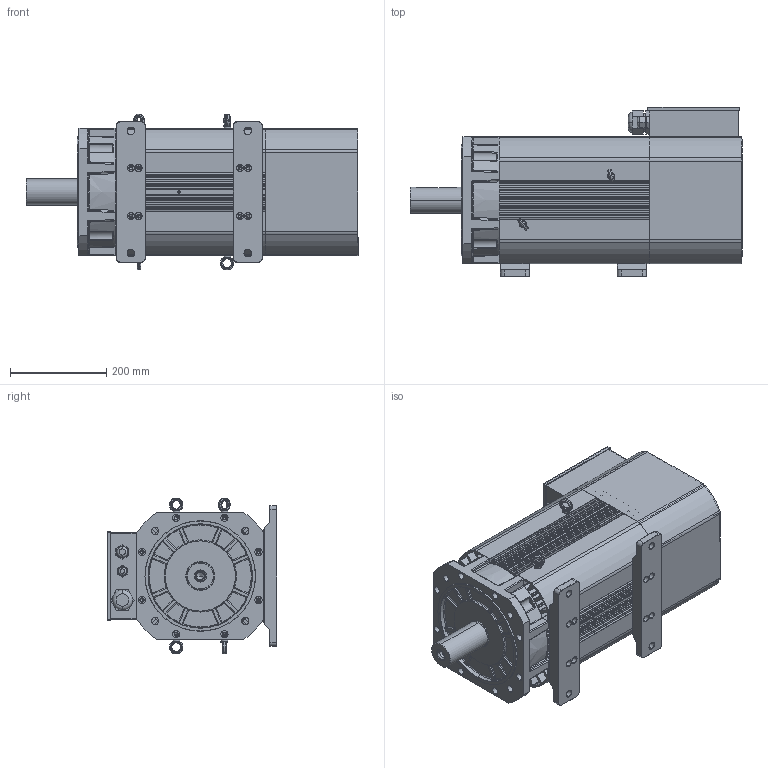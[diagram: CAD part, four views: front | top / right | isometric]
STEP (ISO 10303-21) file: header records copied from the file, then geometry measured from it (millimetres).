
FILE_DESCRIPTION (( 'STEP AP203' ), '1' );
FILE_NAME ('265H-B35-55J 俋倛芞.STEP', '2022-04-15T08:52:37', ( '' ), ( '' ), 'SwSTEP 2.0', 'SolidWorks 2016', '' );
FILE_SCHEMA (( 'CONFIG_CONTROL_DESIGN' ));
Length unit declared in the file: millimetre
Products named in the file (22): 265-55J-粣18.5kw; 齬脣晤鎢ん啣; ヶ裔55J郪璃; 接线盒后盖风罩组件; 265H儂褲22KW; 265瑞欶; M36蹟杶; 265諉盄碟; M16X1.5蹟杶; 265芧埽ヶ傷裔; 諉盄碟郪璃; 瑞儂諉盄翐; 齬脣鼠芛; 265后端盖铸铁_光电编码器; M20X1.5蹟杶; 265菁褐; 265H-B35-55J 俋倛芞; cross recessed cheese head screws gb_GB_CROSS_SCREWS_TYPE2 M3X4-4  H type-N; M8X12裂遠; 265諉盄碟裔
Assembly tree (30 placements, depth 5):
  265H-B35-55J 俋倛芞
    265H儂褲22KW
    ヶ裔55J郪璃
      265芧埽ヶ傷裔
      265-55J-粣18.5kw
    接线盒后盖风罩组件
      265后端盖铸铁_光电编码器
      265瑞欶
      諉盄碟郪璃
        265諉盄碟
        M36蹟杶
        M16X1.5蹟杶
        M20X1.5蹟杶
        265諉盄碟裔
        瑞儂諉盄翐
          瑞儂諉盄翐
          cross recessed cheese head screws gb_GB_CROSS_SCREWS_TYPE2 M3X4-4  H type-N  x6
        齬脣晤鎢ん啣
          齬脣晤鎢ん啣
          齬脣鼠芛
    M8X12裂遠  x4
    265菁褐  x2
Bounding box: 690 x 352.5 x 324 mm (x, y, z)
Volume: 9342359.6 mm3; surface area: 2612185 mm2
Topology: 25 solids, 25 shells, 2598 faces, 6845 edges, 4249 vertices
Faces by surface type: cylinder 1097, plane 884, cone 227, torus 184, bspline 126, sphere 80
Entity records: 77052 total; most frequent: CARTESIAN_POINT 17961, DIRECTION 12374, ORIENTED_EDGE 11630, EDGE_CURVE 5815, AXIS2_PLACEMENT_3D 4735, VERTEX_POINT 3672, LINE 2904, VECTOR 2904
